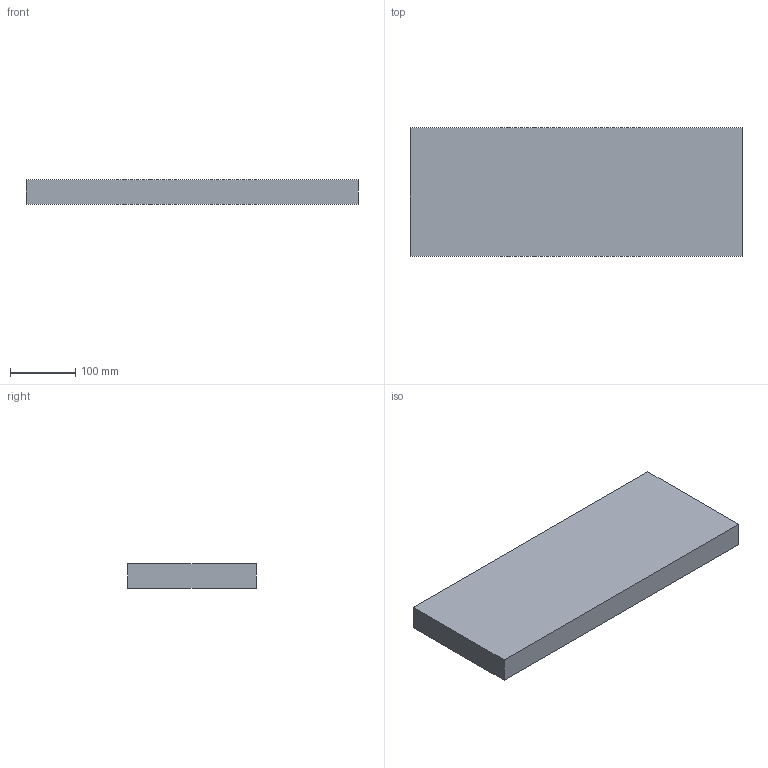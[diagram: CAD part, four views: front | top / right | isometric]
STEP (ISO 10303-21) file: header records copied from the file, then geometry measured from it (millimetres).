
FILE_DESCRIPTION(('FreeCAD Model'),'2;1');
FILE_NAME('/home/jwright/Documents/Mach_30/Shepard_v1.0_Mechanical/STEP_Files/Shepard_v1.0_Base_Top_TSBa02.step','2012-10-16T23:16:39',( 'FreeCAD'),('FreeCAD'),'Open CASCADE STEP processor 6.5','FreeCAD', 'Unknown');
FILE_SCHEMA(('AUTOMOTIVE_DESIGN_CC2 { 1 2 10303 214 -1 1 5 4 }'));
Length unit declared in the file: millimetre
Products named in the file (1): Box
Bounding box: 508 x 196.85 x 38.1 mm (x, y, z)
Volume: 3809992.3 mm3; surface area: 253709.2 mm2
Topology: 1 solids, 1 shells, 6 faces, 12 edges, 8 vertices
Faces by surface type: plane 6
Entity records: 333 total; most frequent: CARTESIAN_POINT 51, DIRECTION 50, LINE 36, VECTOR 36, ORIENTED_EDGE 24, PCURVE 24, DEFINITIONAL_REPRESENTATION 24, EDGE_CURVE 12
